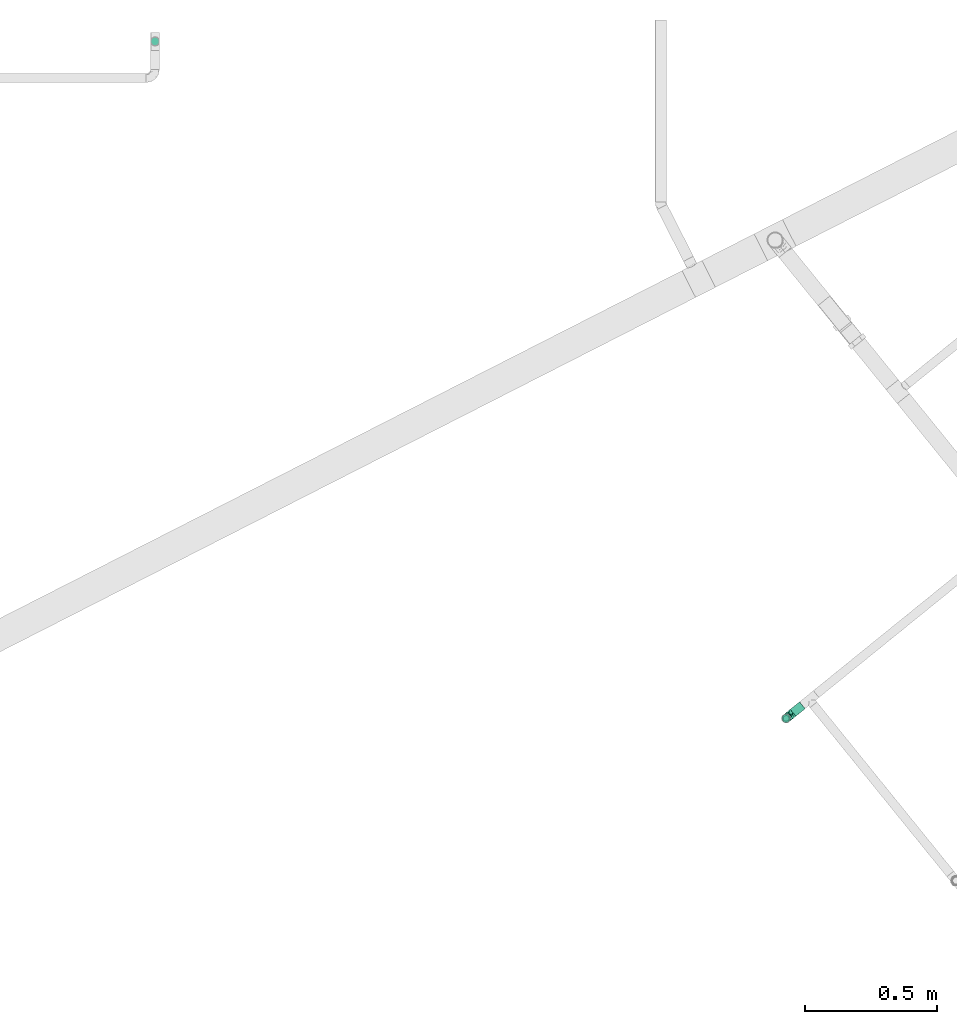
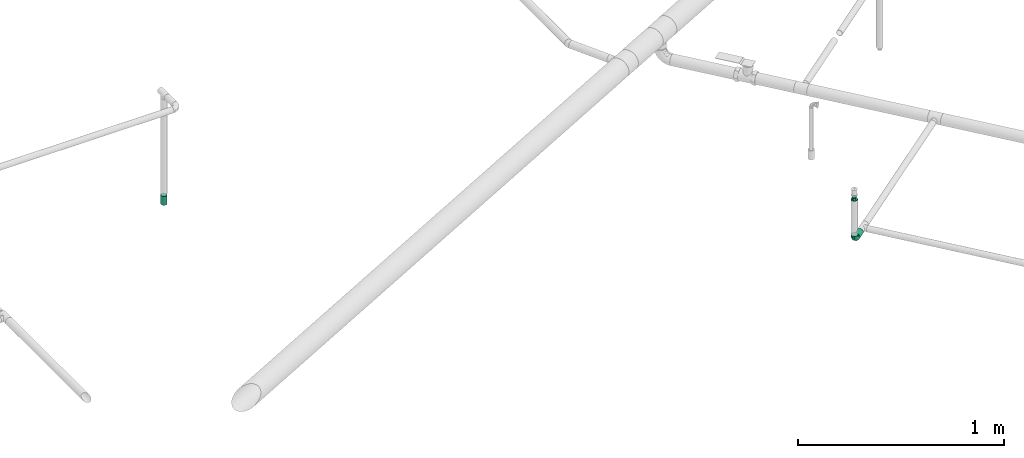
# One storey, part 82 of 94: 2 flow fittings, 1 flow segment, 1 flow terminal.
"""IFC2X3 building model written with IfcOpenShell, lengths in millimetres."""

import ifcopenshell
import ifcopenshell.guid

model = None  # the IFC model being written
_history = None  # IfcOwnerHistory: only IFC2X3 demands one
_inside = {}  # id of a spatial element -> (the spatial element, [elements in it])
_under = {}  # id of a project, library or spatial element -> (it, [spatial elements below it])
_declared = {}  # id of a project -> (the project, [libraries it declares])
_typed = {}  # id of a type object -> (the type object, [elements of that type])
_made_of = {}  # id of a material, layer set ... -> (it, [elements and type objects made of it])


def new_model(schema):
    """Start an empty IFC model of exactly this schema.

    Asked for "IFC4X3", IfcOpenShell would pick the latest addendum, in which some entities
    have other attributes; the version numbers below select the first issue.
    IFC2X3 requires an IfcOwnerHistory on every rooted entity: one is made here for all.
    """
    global model, _history
    if schema == "IFC4X3":
        model = ifcopenshell.file(schema_version=(4, 3, 0, 0))
    else:
        model = ifcopenshell.file(schema=schema)
    _inside.clear()
    _under.clear()
    _declared.clear()
    _typed.clear()
    _made_of.clear()
    _history = None
    if model.schema == "IFC2X3":
        org = make("IfcOrganization", Name="unknown")
        user = make(
            "IfcPersonAndOrganization",
            ThePerson=make("IfcPerson", FamilyName="unknown"),
            TheOrganization=org,
        )
        app = make(
            "IfcApplication",
            ApplicationDeveloper=org,
            Version="unknown",
            ApplicationFullName="unknown",
            ApplicationIdentifier="unknown",
        )
        _history = make(
            "IfcOwnerHistory",
            OwningUser=user,
            OwningApplication=app,
            ChangeAction="ADDED",
            CreationDate=0,
        )
    return model


def make(cls, **values):
    """One entity of the class cls with the attributes given. An attribute that is None is left unset."""
    return model.create_entity(
        cls, **{name: value for name, value in values.items() if value is not None}
    )


def entity(cls, *values):
    """Any entity or typed value of the class cls, its attributes in the order of the schema. None: left unset."""
    e = model.create_entity(cls)
    for i, value in enumerate(values):
        if value is not None:
            e[i] = value
    return e


def rooted(cls, **values):
    """An entity with a GlobalId (a new one), such as an element, a storey or a relation."""
    return make(cls, GlobalId=ifcopenshell.guid.new(), OwnerHistory=_history, **values)


def si_unit(unit_type, name, prefix=None):
    """IfcSIUnit, for example si_unit("LENGTHUNIT", "METRE", prefix="MILLI")."""
    return make("IfcSIUnit", UnitType=unit_type, Prefix=prefix, Name=name)


def converted_unit(unit_type, name, factor, base, dimensions=None, offset=None):
    """IfcConversionBasedUnit, such as the inch: factor (a typed value) times the base unit."""
    return make(
        "IfcConversionBasedUnit"
        if offset is None
        else "IfcConversionBasedUnitWithOffset",
        ConversionOffset=offset,
        Dimensions=None
        if dimensions is None
        else entity("IfcDimensionalExponents", *dimensions),
        UnitType=unit_type,
        Name=name,
        ConversionFactor=make(
            "IfcMeasureWithUnit", ValueComponent=factor, UnitComponent=base
        ),
    )


def derived_unit(unit_type, elements):
    """IfcDerivedUnit: a product of units, each with its exponent."""
    return make(
        "IfcDerivedUnit",
        Elements=[
            make("IfcDerivedUnitElement", Unit=unit, Exponent=power)
            for unit, power in elements
        ],
        UnitType=unit_type,
    )


def assignment(units):
    """IfcUnitAssignment: the units of a project."""
    return None if units is None else make("IfcUnitAssignment", Units=units)


def point(xyz):
    """IfcCartesianPoint."""
    return None if xyz is None else make("IfcCartesianPoint", Coordinates=xyz)


def direction(xyz):
    """IfcDirection."""
    return None if xyz is None else make("IfcDirection", DirectionRatios=xyz)


def frame(location, z_axis=None, x_axis=None):
    """IfcAxis2Placement3D, a coordinate frame: its origin and axes. An axis left out is left unset."""
    return make(
        "IfcAxis2Placement3D",
        Location=point(location),
        Axis=direction(z_axis),
        RefDirection=direction(x_axis),
    )


def frame_2d(location, x_axis=None):
    """IfcAxis2Placement2D, a coordinate frame in the plane: its origin and x axis."""
    return make(
        "IfcAxis2Placement2D", Location=point(location), RefDirection=direction(x_axis)
    )


def origin_with_axes():
    """The frame at (0, 0, 0) with the z axis (0, 0, 1) and the x axis (1, 0, 0) written out."""
    return frame((0.0, 0.0, 0.0), z_axis=(0.0, 0.0, 1.0), x_axis=(1.0, 0.0, 0.0))


def origin_2d_with_axis():
    """The frame at (0, 0) in the plane with the x axis (1, 0) written out."""
    return frame_2d((0.0, 0.0), x_axis=(1.0, 0.0))


def place(relative_to, where):
    """IfcLocalPlacement: puts the frame where relative to a parent placement (None: the world)."""
    return make(
        "IfcLocalPlacement", PlacementRelTo=relative_to, RelativePlacement=where
    )


def context(
    kind, dimensions, precision=None, world=None, true_north=None, identifier=None
):
    """IfcGeometricRepresentationContext, for example the 3D "Model" context."""
    return make(
        "IfcGeometricRepresentationContext",
        ContextIdentifier=identifier,
        ContextType=kind,
        CoordinateSpaceDimension=dimensions,
        Precision=precision,
        WorldCoordinateSystem=world,
        TrueNorth=true_north,
    )


def subcontext(parent, identifier, kind, view, scale=None):
    """IfcGeometricRepresentationSubContext, for example "Body" below "Model"."""
    return make(
        "IfcGeometricRepresentationSubContext",
        ContextIdentifier=identifier,
        ContextType=kind,
        ParentContext=parent,
        TargetScale=scale,
        TargetView=view,
    )


def project(units=None, contexts=None):
    """IfcProject with its units and contexts."""
    return rooted(
        "IfcProject",
        Name="project",
        RepresentationContexts=contexts,
        UnitsInContext=assignment(units),
    )


def spatial(cls, under=None, at=None, **own):
    """A site, building, storey or space (cls), placed at a placement, below another one or the project."""
    s = rooted(cls, ObjectPlacement=at, **own)
    if under is not None:
        _under.setdefault(under.id(), (under, []))[1].append(s)
    return s


def profile(cls, at=None, kind="AREA", **sizes):
    """A parametric profile (cls). Its sizes go by their IFC names, for example OverallWidth=200.0."""
    return make(cls, ProfileType=kind, Position=at, **sizes)


def hollow_circle(**sizes):
    """IfcCircleHollowProfileDef."""
    return profile("IfcCircleHollowProfileDef", **sizes)


def extrude(swept, where, along, depth):
    """IfcExtrudedAreaSolid: the profile swept, set in the frame where, extruded along a direction by depth."""
    return make(
        "IfcExtrudedAreaSolid",
        SweptArea=swept,
        Position=where,
        ExtrudedDirection=direction(along),
        Depth=depth,
    )


def faces_of(points, faces, orient=None, outer=None):
    """IfcFace entities. A face is a list of loops; a loop is a list of indices into points, from 0.

    orient and outer hold one flag for each loop. By default every Orientation is true, the
    first loop of a face is its IfcFaceOuterBound and the others are IfcFaceBound.
    """
    made = []
    for i, loops in enumerate(faces):
        bounds = []
        for j, loop in enumerate(loops):
            is_outer = j == 0 if outer is None else outer[i][j]
            bounds.append(
                make(
                    "IfcFaceOuterBound" if is_outer else "IfcFaceBound",
                    Bound=make("IfcPolyLoop", Polygon=[points[k] for k in loop]),
                    Orientation=True if orient is None else orient[i][j],
                )
            )
        made.append(make("IfcFace", Bounds=bounds))
    return made


def open_shell(faces, orient=None, outer=None):
    """The faces of one IfcOpenShell. surface_model builds it on its shared points."""
    return ("IfcOpenShell", faces, orient, outer)


def surface_model(cls, points, shells):
    """IfcFaceBasedSurfaceModel or IfcShellBasedSurfaceModel (cls): surfaces that need not close."""
    shared = [point(p) for p in points]
    made = [make(c, CfsFaces=faces_of(shared, fs, o, b)) for c, fs, o, b in shells]
    if cls == "IfcFaceBasedSurfaceModel":
        return make(cls, FbsmFaces=made)
    return make(cls, SbsmBoundary=made)


def shape(context_of_items, identifier, shape_type, items):
    """IfcShapeRepresentation: the items that make up one representation, for example the "Body"."""
    return make(
        "IfcShapeRepresentation",
        ContextOfItems=context_of_items,
        RepresentationIdentifier=identifier,
        RepresentationType=shape_type,
        Items=items,
    )


def source(mapping_origin, context_of_items, identifier, shape_type, items):
    """IfcRepresentationMap: a shape defined once, which mapped items show again and again."""
    return make(
        "IfcRepresentationMap",
        MappingOrigin=mapping_origin,
        MappedRepresentation=shape(context_of_items, identifier, shape_type, items),
    )


def transform(
    local_origin,
    x_axis=None,
    y_axis=None,
    z_axis=None,
    scale=None,
    scale2=None,
    scale3=None,
    uniform=True,
):
    """IfcCartesianTransformationOperator3D, or its non-uniform kind. x_axis, y_axis, z_axis: its Axis1, 2, 3."""
    if uniform:
        return make(
            "IfcCartesianTransformationOperator3D",
            Axis1=direction(x_axis),
            Axis2=direction(y_axis),
            LocalOrigin=point(local_origin),
            Scale=scale,
            Axis3=direction(z_axis),
        )
    return make(
        "IfcCartesianTransformationOperator3DnonUniform",
        Axis1=direction(x_axis),
        Axis2=direction(y_axis),
        LocalOrigin=point(local_origin),
        Scale=scale,
        Axis3=direction(z_axis),
        Scale2=scale2,
        Scale3=scale3,
    )


def mapped(mapping_source, mapping_target):
    """IfcMappedItem: shows the shape of a source again, moved by a transform."""
    return make(
        "IfcMappedItem", MappingSource=mapping_source, MappingTarget=mapping_target
    )


def made_of(thing, what):
    """Note that an element or type object is made of a material, layer set ...; save() writes the relation."""
    if what is not None:
        _made_of.setdefault(what.id(), (what, []))[1].append(thing)
    return thing


def type_object(cls, material=None, **own):
    """A type object (cls), such as IfcWallType, which elements share."""
    return made_of(rooted(cls, **own), material)


def element(
    cls,
    number,
    at=None,
    inside=None,
    cuts=None,
    type_object=None,
    material=None,
    context=None,
    identifier="Body",
    shape_type=None,
    held_by="IfcProductDefinitionShape",
    body=None,
    shapes=None,
    **own,
):
    """One element of the class cls, such as IfcWall. Its Tag is "e" and its number.

    at: its placement. inside: the storey or other place that contains it. cuts: it is an
    opening in that element (IfcRelVoidsElement). A single representation is given by context,
    identifier, shape_type and body (its items); several are given by shapes. held_by: the class
    of the entity that holds the representations. save() writes the other relations.
    """
    e = rooted(cls, Tag="e%d" % number, ObjectPlacement=at, **own)
    if body is not None:
        shapes = [shape(context, identifier, shape_type, body)]
    if shapes is not None:
        e.Representation = make(held_by, Representations=shapes)
    if inside is not None:
        _inside.setdefault(inside.id(), (inside, []))[1].append(e)
    if cuts is not None:
        rooted(
            "IfcRelVoidsElement", RelatingBuildingElement=cuts, RelatedOpeningElement=e
        )
    if type_object is not None:
        _typed.setdefault(type_object.id(), (type_object, []))[1].append(e)
    return made_of(e, material)


def aggregate(whole, parts):
    """IfcRelAggregates: a whole, such as a stair, and the parts it consists of."""
    return rooted("IfcRelAggregates", RelatingObject=whole, RelatedObjects=parts)


def save(model, path):
    """Write the relations noted so far, then the file.

    IfcRelAggregates (storeys below a building ...), IfcRelContainedInSpatialStructure (elements
    in a storey), IfcRelDefinesByType, IfcRelAssociatesMaterial and IfcRelDeclares: one each for
    every whole, place, type object, material and project.
    """
    for whole, parts in _under.values():
        aggregate(whole, parts)
    for where, things in _inside.values():
        rooted(
            "IfcRelContainedInSpatialStructure",
            RelatedElements=things,
            RelatingStructure=where,
        )
    for kind, things in _typed.values():
        rooted("IfcRelDefinesByType", RelatedObjects=things, RelatingType=kind)
    for what, things in _made_of.values():
        rooted("IfcRelAssociatesMaterial", RelatedObjects=things, RelatingMaterial=what)
    for by, libraries in _declared.values():
        rooted("IfcRelDeclares", RelatingContext=by, RelatedDefinitions=libraries)
    model.write(path)


model = new_model("IFC2X3")

# Units and contexts
model_context = context("Model", 3, precision=0.01, world=frame((0.0, 4.29681676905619e-09, 0.0)), true_north=direction((4.01073788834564e-13, 1.0)))
plan_context = context("Plan", 3, precision=0.01, world=frame((0.0, 4.29681676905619e-09, 0.0)), true_north=direction((4.01073788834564e-13, 1.0)))
body_context = subcontext(model_context, "Body", "Model", "MODEL_VIEW")
ifc_project = project(units=[converted_unit("PLANEANGLEUNIT", "DEGREE", entity("IfcPositiveLengthMeasure", 0.0174532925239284), si_unit("PLANEANGLEUNIT", "RADIAN"), dimensions=[0, 0, 0, 0, 0, 0, 0]), si_unit("AREAUNIT", "SQUARE_METRE"), si_unit("LENGTHUNIT", "METRE", prefix="MILLI"), si_unit("MASSUNIT", "GRAM", prefix="KILO"), si_unit("POWERUNIT", "WATT"), si_unit("PRESSUREUNIT", "PASCAL", prefix="KILO"), si_unit("FORCEUNIT", "NEWTON", prefix="KILO"), si_unit("ELECTRICVOLTAGEUNIT", "VOLT"), si_unit("ELECTRICCURRENTUNIT", "AMPERE"), si_unit("THERMODYNAMICTEMPERATUREUNIT", "DEGREE_CELSIUS"), si_unit("TIMEUNIT", "SECOND"), si_unit("VOLUMEUNIT", "CUBIC_METRE"), derived_unit("LINEARVELOCITYUNIT", [(si_unit("LENGTHUNIT", "METRE"), 1), (si_unit("TIMEUNIT", "SECOND"), -1)]), derived_unit("VOLUMETRICFLOWRATEUNIT", [(si_unit("VOLUMEUNIT", "CUBIC_METRE"), 1), (si_unit("TIMEUNIT", "SECOND"), -1)]), derived_unit("THERMALTRANSMITTANCEUNIT", [(si_unit("POWERUNIT", "WATT"), 1), (si_unit("THERMODYNAMICTEMPERATUREUNIT", "KELVIN"), -1), (si_unit("AREAUNIT", "SQUARE_METRE"), -1)]), derived_unit("SOUNDPRESSUREUNIT", [(si_unit("PRESSUREUNIT", "PASCAL"), 1)])], contexts=[model_context, plan_context])

# Site, building, storey
site_placement = place(None, frame((0.0, -4.29681676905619e-09, 0.0), z_axis=(0.0, 0.0, 1.0), x_axis=(1.0, 0.0, 0.0)))
site = spatial("IfcSite", under=ifc_project, at=site_placement, CompositionType="ELEMENT")
building_placement = place(site_placement, frame((0.0, 4.29681676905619e-09, 0.0), z_axis=(0.0, 0.0, 1.0), x_axis=(1.0, 0.0, 0.0)))
building = spatial("IfcBuilding", under=site, at=building_placement, Name="mc-building", CompositionType="ELEMENT")
storey_placement = place(building_placement, frame((0.0, 0.0, 210900.0), z_axis=(0.0, 0.0, 1.0), x_axis=(1.0, 0.0, 0.0)))
storey = spatial("IfcBuildingStorey", under=building, at=storey_placement, Name="Nivå F", CompositionType="ELEMENT", Elevation=210900.0)

# Flow fittings
pipe_fitting_type_1 = type_object("IfcPipeFittingType", Name="magi_pipe_fe_elbow_short_001", PredefinedType="BEND")
shared_shape_1 = source(origin_with_axes(), body_context, "Body", "SurfaceModel", [
    surface_model("IfcShellBasedSurfaceModel", [(-33.8, 8.45, -14.63583), (-33.8, 4.37404, -16.32415), (-33.8, 11.9501, -11.9501), (-33.8, -11.9501, -11.9501), (-33.8, -14.63583, -8.45), (-33.8, -8.45, -14.63583), (-33.8, 0.0, -16.9), (-33.8, -4.37404, -16.32415), (-33.8, -4.37404, 16.32415), (-33.8, 0.0, 16.9), (-33.8, -8.45, 14.63583), (-33.8, 16.32415, -4.37404), (-33.8, 14.63583, -8.45), (-33.8, -16.32415, -4.37404), (-33.8, -16.9, 0.0), (-33.8, -16.32415, 4.37404), (-33.8, 11.9501, 11.9501), (-33.8, 14.63583, 8.45), (-33.8, 16.32415, 4.37404), (-33.8, 4.37404, 16.32415), (-33.8, 8.45, 14.63583), (-33.8, -14.63583, 8.45), (-33.8, -11.9501, 11.9501), (-33.8, 16.9, 0.0), (-11.9501, 33.8, -11.9501), (0.0, 33.8, -16.9), (-4.37404, 33.8, -16.32415), (-8.45, 33.8, -14.63583), (-14.63583, 33.8, -8.45), (-16.32415, 33.8, -4.37404), (14.63583, 33.8, -8.45), (8.45, 33.8, 14.63583), (16.32415, 33.8, -4.37404), (8.45, 33.8, -14.63583), (11.9501, 33.8, -11.9501), (4.37404, 33.8, -16.32415), (16.32415, 33.8, 4.37404), (16.9, 33.8, 0.0), (-11.9501, 33.8, 11.9501), (-16.32415, 33.8, 4.37404), (-14.63583, 33.8, 8.45), (-8.45, 33.8, 14.63583), (-4.37404, 33.8, 16.32415), (11.9501, 33.8, 11.9501), (14.63583, 33.8, 8.45), (0.0, 33.8, 16.9), (4.37404, 33.8, 16.32415), (-16.9, 33.8, 0.0), (-24.79389, -13.12945, 9.48721), (-22.19287, -9.75018, 12.59315), (-24.09897, -14.97035, 0.0), (-14.93934, -10.76256, 8.5297), (-22.46095, -14.75051, 5.27077), (14.75051, 22.46094, 5.27077), (11.9251, 13.23888, 4.33236), (13.04069, 14.39795, 0.0), (7.71387, 13.68847, 11.55891), (9.75018, 22.19287, 12.59315), (4.10169, 13.0571, 14.04018), (-24.84007, -6.39063, 15.2048), (-25.81779, -2.23879, 16.61097), (-23.66549, 2.59054, 16.87119), (-26.50418, 14.06512, 11.08152), (-24.21253, 17.66365, 7.72657), (-29.58514, 15.86957, 7.00283), (-6.17382, -7.5455, 0.0), (-13.23888, -11.9251, 4.33236), (-14.39795, -13.04069, 0.0), (-17.81434, 18.87373, 11.97104), (-6.30846, 29.15138, 15.82987), (-2.31622, 25.28002, 16.85849), (-29.23923, 10.23435, 13.77053), (-1.45439, -2.85688, 7.61475), (-0.28326, 0.34872, 10.09509), (-5.74484, -4.04709, 10.4122), (-4.41137, 11.31918, 16.59407), (-8.39727, 3.10034, 15.7812), (-1.72649, 9.1306, 15.53089), (-17.39909, 24.75344, 7.64977), (-26.19233, 20.0512, 0.0), (-28.14518, 17.29657, 4.25857), (-26.05147, 6.6281, 15.96447), (-5.87354, 16.61944, 16.86968), (-12.51807, 12.51807, 16.48937), (-10.06312, 7.38516, 16.81295), (-3.01882, 3.01882, 13.81718), (-13.0571, -4.10169, 14.04018), (-16.82553, -0.15166, 16.38038), (10.76256, 14.93934, 8.5297), (13.12945, 24.79389, 9.48721), (6.39063, 24.84007, 15.2048), (2.23879, 25.81779, 16.61097), (-13.68847, -7.71387, 11.55891), (14.97035, 24.09897, 0.0), (-7.30894, 22.89991, 16.09489), (-10.67958, 26.17414, 14.008), (-12.78295, 18.26924, 15.06066), (-13.88562, 22.45231, 12.93244), (-18.04944, 15.16501, 14.04434), (-23.11658, 20.08178, 4.02986), (-21.84989, 21.84989, 0.0), (-18.55817, 25.48277, 3.93065), (-13.95142, 26.94732, 11.03289), (-18.57098, 7.23906, 16.59756), (-16.58335, 4.14122, 16.89279), (-17.96666, 11.46709, 15.63151), (-9.84453, 17.54304, 16.18938), (0.15166, 16.82553, 16.38038), (-23.27207, 11.47201, 14.23154), (3.84842, 5.86994, 10.70473), (-8.0212, -7.54413, 7.93275), (1.00345, -2.19508, 4.57414), (5.13203, 3.01004, 5.90201), (5.24161, 1.7543, 2.53265), (8.70457, 7.04947, 3.99182), (-20.0512, 26.19233, 0.0), (8.4852, 8.76699, 7.09296), (-4.55488, -6.72064, 4.90681), (2.05031, -2.05031, 0.0), (7.5455, 6.17382, 0.0), (-26.75399, 2.1369, -16.845), (-14.61995, 24.73803, -11.27736), (-28.45274, -13.45335, -9.81895), (-26.00469, 6.63555, -15.96645), (-23.06726, 20.04573, -4.26202), (-13.80647, -4.26506, -14.17873), (-14.67501, -0.21081, -16.07388), (-6.7902, -0.2828, -13.8478), (-24.53586, 11.08096, -14.13417), (-26.72048, 14.00837, -11.05776), (10.0967, 24.44989, -12.75976), (5.83237, 21.40218, -15.03047), (6.66249, 28.54238, -15.38093), (-20.38182, 15.48705, -12.74596), (12.53268, 21.23441, -9.15363), (12.54494, 15.67504, -5.54878), (9.7522, 12.89279, -8.66343), (-15.65186, 19.64213, -13.01327), (-12.03528, 20.66498, -14.67665), (-15.61907, 15.61906, -14.83879), (-25.56551, -15.26206, 0.0), (-24.65452, -15.12934, -5.50955), (13.45335, 28.45274, -9.81895), (15.12934, 24.65452, -5.50955), (-7.35442, -8.31014, -5.65563), (-15.67504, -12.54494, -5.54878), (-24.44989, -10.0967, -12.75976), (0.16522, 0.41303, -9.71728), (-5.70658, -5.33066, -8.89288), (-5.13869, -2.37198, -11.53565), (-21.23441, -12.53268, -9.15363), (0.71146, 7.93863, -14.09382), (0.21081, 14.67501, -16.07388), (3.49291, 14.42772, -14.76381), (-24.89911, -2.13088, -16.591), (-28.54238, -6.66249, -15.38093), (-18.44386, -7.71663, -13.26957), (2.13088, 24.89911, -16.591), (-28.64342, 17.44413, -2.89318), (1.70017, -1.28722, -5.09504), (-16.57067, 26.81947, -7.36596), (-17.69055, 27.4263, -3.76405), (-12.89279, -9.7522, -8.66343), (-5.96611, 5.96611, -15.95814), (-20.53709, 20.09345, -8.28985), (-2.1369, 26.75399, -16.845), (-6.89872, 24.58781, -16.02578), (-10.60739, 26.53157, -13.98044), (-21.40218, -5.83237, -15.03047), (2.93192, 5.89627, -11.55917), (6.89393, 12.61842, -11.82233), (5.58056, 5.95325, -8.79455), (-3.99512, 18.61798, -16.89635), (8.31014, 7.35442, -5.65563), (-9.1383, 9.86148, -16.89041), (-9.99983, 16.02119, -16.39699), (-16.68576, 9.78031, -16.34199), (-27.01915, 16.61158, -7.12979), (15.26206, 25.56551, 0.0), (-18.61798, 3.99512, -16.89635), (-19.37495, 27.82495, 0.0), (-12.61842, -6.89393, -11.82233), (-18.84705, 19.14018, -10.96545)], [open_shell([[[0, 1, 2]], [[3, 4, 5]], [[6, 7, 5]], [[8, 9, 10]], [[1, 6, 2]], [[11, 12, 2]], [[4, 2, 6]], [[2, 13, 10]], [[5, 4, 6]], [[2, 4, 13]], [[14, 15, 13]], [[11, 2, 16]], [[11, 17, 18]], [[11, 16, 17]], [[19, 20, 16]], [[16, 2, 10]], [[19, 16, 10]], [[21, 22, 15]], [[22, 13, 15]], [[22, 10, 13]], [[10, 9, 19]], [[11, 18, 23]], [[24, 25, 26]], [[24, 26, 27]], [[24, 28, 29]], [[25, 24, 30]], [[31, 32, 24]], [[33, 30, 34]], [[33, 35, 25]], [[25, 30, 33]], [[32, 30, 24]], [[32, 36, 37]], [[38, 24, 29]], [[39, 40, 29]], [[40, 38, 29]], [[38, 41, 42]], [[38, 31, 24]], [[31, 38, 42]], [[36, 43, 44]], [[36, 32, 43]], [[31, 45, 46]], [[32, 31, 43]], [[42, 45, 31]], [[39, 29, 47]], [[22, 48, 49]], [[15, 14, 50]], [[51, 48, 52]], [[53, 54, 55]], [[48, 22, 21]], [[15, 52, 21]], [[56, 57, 58]], [[49, 10, 22]], [[49, 59, 10]], [[9, 60, 61]], [[62, 63, 64]], [[65, 66, 67]], [[57, 43, 31]], [[62, 68, 63]], [[42, 69, 70]], [[20, 71, 16]], [[8, 60, 9]], [[72, 73, 74]], [[75, 76, 77]], [[16, 62, 17]], [[40, 39, 78]], [[79, 23, 80]], [[64, 18, 17]], [[9, 61, 19]], [[19, 81, 20]], [[82, 83, 84]], [[74, 85, 86]], [[59, 86, 87]], [[88, 89, 57]], [[90, 31, 46]], [[44, 53, 36]], [[46, 45, 91]], [[54, 53, 88]], [[44, 89, 53]], [[92, 86, 49]], [[89, 44, 43]], [[10, 59, 8]], [[53, 55, 93]], [[93, 36, 53]], [[66, 52, 67]], [[94, 82, 70]], [[95, 96, 94]], [[97, 98, 96]], [[79, 99, 100]], [[41, 38, 95]], [[101, 100, 99]], [[68, 78, 63]], [[42, 41, 69]], [[23, 18, 80]], [[95, 94, 69]], [[78, 101, 99]], [[38, 102, 95]], [[70, 45, 42]], [[97, 95, 102]], [[15, 50, 52]], [[90, 57, 31]], [[57, 90, 58]], [[81, 19, 61]], [[103, 104, 84]], [[105, 81, 103]], [[38, 40, 102]], [[106, 96, 83]], [[94, 106, 82]], [[91, 70, 107]], [[71, 62, 16]], [[62, 108, 98]], [[86, 59, 49]], [[67, 52, 50]], [[60, 59, 87]], [[92, 49, 51]], [[86, 85, 76]], [[91, 90, 46]], [[37, 36, 93]], [[107, 77, 58]], [[107, 58, 90]], [[58, 85, 109]], [[110, 74, 92]], [[72, 74, 110]], [[66, 51, 52]], [[72, 111, 112]], [[113, 114, 112]], [[56, 88, 57]], [[52, 48, 21]], [[49, 48, 51]], [[57, 89, 43]], [[53, 89, 88]], [[103, 81, 61]], [[71, 81, 108]], [[18, 64, 80]], [[63, 78, 99]], [[47, 115, 101]], [[101, 115, 100]], [[40, 78, 102]], [[68, 102, 78]], [[97, 96, 95]], [[105, 98, 108]], [[103, 84, 83]], [[107, 70, 82]], [[76, 84, 87]], [[82, 84, 75]], [[70, 91, 45]], [[90, 91, 107]], [[59, 60, 8]], [[61, 60, 87]], [[73, 85, 74]], [[109, 112, 116]], [[103, 61, 104]], [[105, 103, 83]], [[96, 105, 83]], [[81, 105, 108]], [[96, 98, 105]], [[62, 98, 68]], [[61, 87, 104]], [[87, 84, 104]], [[86, 76, 87]], [[77, 76, 85]], [[58, 77, 85]], [[75, 77, 107]], [[82, 75, 107]], [[76, 75, 84]], [[81, 71, 20]], [[62, 71, 108]], [[95, 69, 41]], [[70, 69, 94]], [[62, 64, 17]], [[80, 63, 99]], [[63, 80, 64]], [[80, 99, 79]], [[66, 65, 117]], [[110, 66, 117]], [[112, 114, 116]], [[118, 117, 65]], [[110, 92, 51]], [[112, 111, 113]], [[119, 55, 54]], [[74, 86, 92]], [[58, 109, 56]], [[116, 56, 109]], [[66, 110, 51]], [[72, 110, 117]], [[111, 72, 117]], [[73, 112, 109]], [[117, 118, 111]], [[113, 111, 118]], [[118, 119, 113]], [[114, 119, 54]], [[119, 114, 113]], [[116, 54, 88]], [[54, 116, 114]], [[116, 88, 56]], [[112, 73, 72]], [[85, 73, 109]], [[78, 39, 101]], [[47, 101, 39]], [[102, 68, 97]], [[97, 68, 98]], [[82, 106, 83]], [[94, 96, 106]], [[1, 120, 6]], [[28, 24, 121]], [[3, 122, 4]], [[0, 123, 1]], [[100, 124, 79]], [[125, 126, 127]], [[128, 2, 129]], [[130, 131, 132]], [[128, 129, 133]], [[134, 135, 136]], [[137, 138, 139]], [[128, 0, 2]], [[67, 140, 141]], [[134, 142, 143]], [[141, 13, 4]], [[144, 65, 145]], [[146, 3, 5]], [[147, 148, 149]], [[145, 141, 150]], [[151, 152, 153]], [[154, 7, 6]], [[5, 155, 146]], [[150, 146, 156]], [[155, 5, 7]], [[143, 135, 134]], [[35, 157, 25]], [[23, 79, 158]], [[148, 159, 144]], [[160, 161, 29]], [[145, 162, 144]], [[163, 152, 151]], [[29, 28, 160]], [[121, 164, 160]], [[33, 34, 130]], [[25, 165, 26]], [[26, 165, 166]], [[142, 34, 30]], [[24, 27, 167]], [[124, 161, 164]], [[157, 35, 132]], [[155, 154, 168]], [[123, 0, 128]], [[169, 170, 171]], [[172, 157, 152]], [[26, 166, 27]], [[132, 35, 33]], [[142, 130, 34]], [[168, 154, 126]], [[136, 135, 173]], [[133, 137, 139]], [[2, 12, 129]], [[170, 131, 130]], [[30, 32, 143]], [[172, 174, 175]], [[176, 123, 128]], [[158, 177, 11]], [[135, 55, 119]], [[167, 27, 166]], [[175, 166, 172]], [[137, 167, 138]], [[122, 141, 4]], [[140, 14, 13]], [[32, 37, 178]], [[170, 130, 134]], [[152, 157, 131]], [[165, 157, 172]], [[153, 170, 151]], [[152, 163, 174]], [[168, 125, 156]], [[122, 146, 150]], [[120, 154, 6]], [[179, 174, 126]], [[179, 126, 154]], [[126, 163, 127]], [[162, 145, 150]], [[140, 13, 141]], [[32, 178, 143]], [[55, 143, 178]], [[177, 129, 12]], [[128, 133, 139]], [[176, 128, 139]], [[120, 123, 179]], [[121, 160, 28]], [[161, 100, 180]], [[166, 175, 138]], [[121, 24, 167]], [[161, 47, 29]], [[79, 124, 158]], [[124, 164, 177]], [[161, 124, 100]], [[136, 171, 170]], [[127, 163, 151]], [[147, 171, 159]], [[148, 144, 162]], [[127, 151, 169]], [[127, 181, 125]], [[129, 177, 164]], [[12, 11, 177]], [[159, 65, 144]], [[67, 141, 145]], [[143, 55, 135]], [[135, 119, 173]], [[123, 120, 1]], [[154, 120, 179]], [[157, 165, 25]], [[166, 165, 172]], [[172, 152, 174]], [[176, 139, 175]], [[126, 174, 163]], [[176, 174, 179]], [[174, 176, 175]], [[123, 176, 179]], [[150, 181, 162]], [[127, 149, 181]], [[181, 148, 162]], [[159, 148, 147]], [[171, 136, 173]], [[170, 134, 136]], [[159, 171, 173]], [[171, 147, 169]], [[169, 147, 149]], [[151, 170, 169]], [[164, 182, 129]], [[182, 121, 137]], [[181, 149, 148]], [[169, 149, 127]], [[182, 137, 133]], [[167, 137, 121]], [[166, 138, 167]], [[175, 139, 138]], [[129, 182, 133]], [[121, 182, 164]], [[161, 160, 164]], [[47, 161, 180]], [[177, 158, 124]], [[23, 158, 11]], [[130, 132, 33]], [[157, 132, 131]], [[143, 142, 30]], [[130, 142, 134]], [[154, 155, 7]], [[146, 155, 168]], [[146, 122, 3]], [[141, 122, 150]], [[152, 131, 153]], [[159, 119, 118]], [[67, 145, 65]], [[170, 153, 131]], [[119, 159, 173]], [[159, 118, 65]], [[156, 125, 181]], [[126, 125, 168]], [[150, 156, 181]], [[168, 156, 146]]])]),
])
flow_fitting_1_placement = place(storey_placement, frame((724295.62051, 443560.15199, 3500.0), z_axis=(-0.629320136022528, 0.777146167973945, 0.0), x_axis=(-0.777146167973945, -0.629320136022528, 0.0)))
element("IfcFlowFitting", 1, at=flow_fitting_1_placement, inside=storey, type_object=pipe_fitting_type_1, Name="magi_pipe_fe_elbow_short_001", context=body_context, shape_type="MappedRepresentation", body=[
    mapped(shared_shape_1, transform((0.0, 0.0, 0.0), scale=1.0)),
])
pipe_fitting_type_2 = type_object("IfcPipeFittingType", Name="magi_pipe_fe_reducer_centric_short_NOR", PredefinedType="TRANSITION")
shared_shape_2 = source(origin_with_axes(), body_context, "Body", "SurfaceModel", [
    surface_model("IfcShellBasedSurfaceModel", [(14.4, -11.9501, -11.9501), (14.4, -8.45, -14.63583), (14.4, -4.37404, -16.32415), (14.4, 8.45, -14.63583), (14.4, 16.9, 0.0), (14.4, -14.63583, -8.45), (14.4, -16.32415, -4.37404), (14.4, -4.37404, 16.32415), (14.4, 4.37404, -16.32415), (14.4, 0.0, -16.9), (14.4, 14.63583, -8.45), (14.4, 16.32415, -4.37404), (14.4, 11.9501, -11.9501), (14.4, -16.32415, 4.37404), (14.4, -16.9, 0.0), (14.4, -11.9501, 11.9501), (14.4, -14.63583, 8.45), (14.4, -8.45, 14.63583), (14.4, 0.0, 16.9), (14.4, 16.32415, 4.37404), (14.4, 14.63583, 8.45), (14.4, 11.9501, 11.9501), (14.4, 8.45, 14.63583), (14.4, 4.37404, 16.32415), (12.4, 0.0, 16.9), (12.4, 14.63583, 8.45), (12.4, -4.37404, 16.32415), (12.4, -8.45, 14.63583), (12.4, -16.32415, 4.37404), (12.4, -14.63583, 8.45), (12.4, -11.9501, 11.9501), (12.4, 11.9501, 11.9501), (12.4, 8.45, 14.63583), (12.4, 4.37404, 16.32415), (12.4, 16.32415, 4.37404), (12.4, 16.9, 0.0), (12.4, 16.32415, -4.37404), (12.4, 8.45, -14.63583), (12.4, -11.9501, -11.9501), (12.4, -16.32415, -4.37404), (12.4, -14.63583, -8.45), (12.4, -4.37404, -16.32415), (12.4, -8.45, -14.63583), (12.4, 14.63583, -8.45), (12.4, 11.9501, -11.9501), (12.4, 4.37404, -16.32415), (12.4, 0.0, -16.9), (12.4, -16.9, 0.0), (-2.0, 0.0, 10.7), (-2.0, 10.33541, -2.76936), (-2.0, -2.76936, 10.33541), (-2.0, -5.35, 9.26647), (-2.0, -10.33541, 2.76936), (-2.0, -9.26647, 5.35), (-2.0, -7.56604, 7.56604), (-2.0, 10.33541, 2.76936), (-2.0, 5.35, 9.26647), (-2.0, 7.56604, 7.56604), (-2.0, 2.76936, 10.33541), (-2.0, 9.26647, 5.35), (-2.0, 10.7, 0.0), (-2.0, -10.33541, -2.76936), (-2.0, -9.26647, -5.35), (-2.0, -7.56604, -7.56604), (-2.0, -5.35, -9.26647), (-2.0, -2.76936, -10.33541), (-2.0, 9.26647, -5.35), (-2.0, 7.56604, -7.56604), (-2.0, 5.35, -9.26647), (-2.0, 2.76936, -10.33541), (-2.0, 0.0, -10.7), (-2.0, -10.7, 0.0), (0.0, -2.76936, -10.33541), (0.0, 0.0, -10.7), (0.0, -5.35, -9.26647), (0.0, -7.56604, -7.56604), (0.0, -10.33541, -2.76936), (0.0, 10.33541, -2.76936), (0.0, -9.26647, -5.35), (0.0, 0.0, 10.7), (0.0, 2.76936, -10.33541), (0.0, 5.35, -9.26647), (0.0, 9.26647, -5.35), (0.0, 7.56604, -7.56604), (0.0, -10.33541, 2.76936), (0.0, -10.7, 0.0), (0.0, -7.56604, 7.56604), (0.0, -9.26647, 5.35), (0.0, -2.76936, 10.33541), (0.0, -5.35, 9.26647), (0.0, 7.56604, 7.56604), (0.0, 9.26647, 5.35), (0.0, 10.33541, 2.76936), (0.0, 10.7, 0.0), (0.0, 5.35, 9.26647), (0.0, 2.76936, 10.33541), (12.4, -2.98753, -15.66253), (12.4, -5.97505, -14.42505), (0.0, -2.675, -9.26647), (12.4, 15.66253, -2.98753), (12.4, 14.42505, -5.97505), (0.0, 9.3625, -2.31662), (0.0, 2.675, -9.26647), (12.4, 5.97505, -14.42505), (12.4, 8.96258, -13.18758), (0.0, 6.6875, -6.94985), (12.4, -14.42505, -5.97505), (12.4, -15.66253, -2.98753), (0.0, -9.3625, -2.31662), (0.0, 8.025, -4.63324), (12.4, 13.18758, -8.96258), (12.4, 2.98753, -15.66253), (0.0, -6.6875, -6.94985), (12.4, -13.18758, -8.96258), (12.4, -8.96258, -13.18758), (0.0, 0.0, -9.26647), (0.0, -8.025, -4.63324), (12.4, 2.98753, 15.66253), (12.4, 5.97505, 14.42505), (0.0, 2.675, 9.26647), (12.4, -15.66253, 2.98753), (12.4, -14.42505, 5.97505), (0.0, -9.3625, 2.31662), (0.0, -2.675, 9.26647), (12.4, -5.97505, 14.42505), (12.4, -8.96258, 13.18758), (0.0, -6.6875, 6.94985), (12.4, 14.42505, 5.97505), (12.4, 15.66253, 2.98753), (0.0, 9.3625, 2.31662), (0.0, -8.025, 4.63324), (12.4, -13.18758, 8.96258), (12.4, -2.98753, 15.66253), (0.0, 6.6875, 6.94985), (12.4, 13.18758, 8.96258), (12.4, 8.96258, 13.18758), (0.0, 0.0, 9.26647), (0.0, 8.025, 4.63324)], [open_shell([[[0, 1, 2]], [[0, 2, 3]], [[3, 4, 0]], [[5, 0, 6]], [[0, 7, 6]], [[8, 3, 9]], [[3, 2, 9]], [[10, 11, 12]], [[3, 12, 11]], [[11, 4, 3]], [[13, 14, 6]], [[15, 16, 13]], [[7, 15, 13]], [[0, 4, 7]], [[17, 15, 7]], [[18, 7, 4]], [[19, 20, 18]], [[18, 4, 19]], [[21, 22, 20]], [[22, 18, 20]], [[23, 18, 22]], [[13, 6, 7]], [[24, 25, 26]], [[27, 26, 28]], [[28, 29, 30]], [[27, 28, 30]], [[28, 26, 25]], [[31, 25, 32]], [[24, 33, 32]], [[32, 25, 24]], [[28, 25, 34]], [[35, 36, 34]], [[37, 28, 34]], [[38, 39, 28]], [[40, 39, 38]], [[41, 42, 38]], [[38, 28, 37]], [[38, 37, 41]], [[43, 44, 36]], [[37, 36, 44]], [[45, 46, 37]], [[37, 34, 36]], [[37, 46, 41]], [[47, 28, 39]], [[35, 11, 36]], [[36, 10, 43]], [[37, 44, 3]], [[12, 44, 43]], [[45, 37, 8]], [[11, 10, 36]], [[35, 4, 11]], [[37, 3, 8]], [[3, 44, 12]], [[43, 10, 12]], [[45, 8, 9]], [[9, 46, 45]], [[46, 2, 41]], [[41, 1, 42]], [[40, 38, 5]], [[0, 38, 42]], [[39, 40, 6]], [[1, 0, 42]], [[41, 2, 1]], [[39, 6, 14]], [[6, 40, 5]], [[38, 0, 5]], [[39, 14, 47]], [[9, 2, 46]], [[47, 13, 28]], [[28, 16, 29]], [[27, 30, 17]], [[15, 30, 29]], [[26, 27, 7]], [[13, 16, 28]], [[47, 14, 13]], [[27, 17, 7]], [[17, 30, 15]], [[29, 16, 15]], [[26, 7, 18]], [[18, 24, 26]], [[24, 23, 33]], [[33, 22, 32]], [[25, 31, 20]], [[21, 31, 32]], [[34, 25, 19]], [[22, 21, 32]], [[33, 23, 22]], [[34, 19, 4]], [[19, 25, 20]], [[31, 21, 20]], [[34, 4, 35]], [[18, 23, 24]], [[48, 49, 50]], [[50, 49, 51]], [[52, 53, 54]], [[51, 52, 54]], [[49, 48, 55]], [[56, 57, 58]], [[57, 48, 58]], [[59, 55, 57]], [[57, 55, 48]], [[60, 49, 55]], [[49, 52, 51]], [[61, 52, 49]], [[62, 61, 63]], [[64, 61, 49]], [[63, 61, 64]], [[65, 64, 49]], [[66, 67, 49]], [[68, 49, 67]], [[69, 70, 68]], [[65, 49, 68]], [[68, 70, 65]], [[71, 52, 61]], [[72, 73, 74]], [[75, 74, 76]], [[76, 74, 77]], [[78, 75, 76]], [[76, 77, 79]], [[80, 81, 73]], [[81, 74, 73]], [[82, 77, 83]], [[81, 83, 77]], [[81, 77, 74]], [[84, 85, 76]], [[86, 87, 84]], [[88, 86, 84]], [[88, 76, 79]], [[89, 86, 88]], [[77, 90, 79]], [[91, 90, 92]], [[92, 77, 93]], [[94, 95, 90]], [[90, 77, 92]], [[79, 90, 95]], [[84, 76, 88]], [[60, 77, 49]], [[49, 82, 66]], [[68, 67, 81]], [[83, 67, 66]], [[69, 68, 80]], [[77, 82, 49]], [[60, 93, 77]], [[68, 81, 80]], [[81, 67, 83]], [[66, 82, 83]], [[69, 80, 73]], [[73, 70, 69]], [[70, 72, 65]], [[65, 74, 64]], [[62, 63, 78]], [[75, 63, 64]], [[61, 62, 76]], [[74, 75, 64]], [[65, 72, 74]], [[61, 76, 85]], [[76, 62, 78]], [[63, 75, 78]], [[61, 85, 71]], [[73, 72, 70]], [[71, 84, 52]], [[52, 87, 53]], [[51, 54, 89]], [[86, 54, 53]], [[50, 51, 88]], [[84, 87, 52]], [[71, 85, 84]], [[51, 89, 88]], [[89, 54, 86]], [[53, 87, 86]], [[50, 88, 79]], [[79, 48, 50]], [[48, 95, 58]], [[58, 94, 56]], [[59, 57, 91]], [[90, 57, 56]], [[55, 59, 92]], [[94, 90, 56]], [[58, 95, 94]], [[55, 92, 93]], [[92, 59, 91]], [[57, 90, 91]], [[55, 93, 60]], [[79, 95, 48]], [[31, 24, 44]], [[24, 30, 47]], [[44, 35, 31]], [[47, 46, 44]], [[46, 47, 38]], [[24, 47, 44]], [[89, 94, 93]], [[85, 89, 74]], [[81, 74, 93]], [[89, 93, 74]], [[96, 97, 98]], [[99, 100, 101]], [[102, 81, 103]], [[93, 35, 99]], [[104, 105, 44]], [[104, 81, 105]], [[106, 107, 108]], [[109, 110, 105]], [[103, 111, 102]], [[74, 98, 97]], [[112, 38, 113]], [[74, 114, 112]], [[107, 47, 85]], [[98, 115, 96]], [[102, 111, 115]], [[104, 103, 81]], [[113, 116, 112]], [[115, 111, 46]], [[99, 101, 93]], [[100, 109, 101]], [[108, 116, 106]], [[108, 107, 85]], [[44, 105, 110]], [[109, 100, 110]], [[115, 46, 96]], [[113, 106, 116]], [[38, 112, 114]], [[74, 97, 114]], [[117, 118, 119]], [[120, 121, 122]], [[123, 89, 124]], [[85, 47, 120]], [[125, 126, 30]], [[125, 89, 126]], [[127, 128, 129]], [[130, 131, 126]], [[124, 132, 123]], [[94, 119, 118]], [[133, 31, 134]], [[94, 135, 133]], [[128, 35, 93]], [[119, 136, 117]], [[123, 132, 136]], [[125, 124, 89]], [[134, 137, 133]], [[136, 132, 24]], [[120, 122, 85]], [[121, 130, 122]], [[129, 137, 127]], [[129, 128, 93]], [[30, 126, 131]], [[130, 121, 131]], [[136, 24, 117]], [[134, 127, 137]], [[31, 133, 135]], [[94, 118, 135]]])]),
])
flow_fitting_2_placement = place(storey_placement, frame((724295.62051, 443560.15199, 3755.04800000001), z_axis=(-1.0, 0.0, 0.0), x_axis=(0.0, 0.0, -1.0)))
element("IfcFlowFitting", 2, at=flow_fitting_2_placement, inside=storey, type_object=pipe_fitting_type_2, Name="magi_pipe_fe_reducer_centric_short_NOR", context=body_context, shape_type="MappedRepresentation", body=[
    mapped(shared_shape_2, transform((0.0, 0.0, 0.0), scale=1.0)),
])

# Flow segment
pipe_segment_type = type_object("IfcPipeSegmentType", Name="Stålrør normaltykke", PredefinedType="RIGIDSEGMENT")
shared_shape_3 = source(origin_with_axes(), body_context, "Body", "SweptSolid", [
    extrude(hollow_circle(Radius=16.9, WallThickness=2.0, at=origin_2d_with_axis()), frame((0.0, 0.0, 0.0), z_axis=(1.0, 0.0, 0.0), x_axis=(0.0, 1.0, 0.0)), (0.0, 0.0, 1.0), 45.6),
])
flow_segment_placement = place(storey_placement, frame((724357.27356, 443610.07764, 3500.0), z_axis=(0.0, 0.0, 1.0), x_axis=(-0.777146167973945, -0.629320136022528, 0.0)))
element("IfcFlowSegment", 3, at=flow_segment_placement, inside=storey, type_object=pipe_segment_type, Name="Stålrør normaltykke", context=body_context, shape_type="MappedRepresentation", body=[
    mapped(shared_shape_3, transform((0.0, 0.0, 0.0), scale=1.0)),
])

# Flow terminal
fire_suppression_terminal_type = type_object("IfcFireSuppressionTerminalType", Name="SP-15-K80-68DGR-STD-HIMLING", PredefinedType="NOTDEFINED")
shared_shape_4 = source(origin_with_axes(), body_context, "Body", "SurfaceModel", [
    surface_model("IfcShellBasedSurfaceModel", [(4.1411, -15.45481, 53.0), (8.0, -13.85641, 53.0), (11.31371, -11.31371, 53.0), (-8.0, -13.85641, 53.0), (15.45481, -4.1411, 53.0), (16.0, 0.0, 53.0), (13.85641, -8.0, 53.0), (0.0, -16.0, 53.0), (-4.1411, -15.45481, 53.0), (-13.85641, -8.0, 53.0), (-11.31371, -11.31371, 53.0), (-15.45481, -4.1411, 53.0), (15.45481, 4.1411, 53.0), (13.85641, 8.0, 53.0), (11.31371, 11.31371, 53.0), (-4.1411, 15.45481, 53.0), (8.0, 13.85641, 53.0), (4.1411, 15.45481, 53.0), (0.0, 16.0, 53.0), (-13.85641, 8.0, 53.0), (-15.45481, 4.1411, 53.0), (-16.0, 0.0, 53.0), (-11.31371, 11.31371, 53.0), (-8.0, 13.85641, 53.0), (0.0, 16.0, 0.0), (4.1411, 15.45481, 0.0), (8.0, 13.85641, 0.0), (-4.1411, 15.45481, 0.0), (11.31371, 11.31371, 0.0), (13.85641, 8.0, 0.0), (15.45481, 4.1411, 0.0), (-15.45481, -4.1411, 0.0), (-11.31371, 11.31371, 0.0), (-8.0, 13.85641, 0.0), (-13.85641, 8.0, 0.0), (-15.45481, 4.1411, 0.0), (-16.0, 0.0, 0.0), (4.1411, -15.45481, 0.0), (16.0, 0.0, 0.0), (15.45481, -4.1411, 0.0), (13.85641, -8.0, 0.0), (11.31371, -11.31371, 0.0), (8.0, -13.85641, 0.0), (-8.0, -13.85641, 0.0), (-13.85641, -8.0, 0.0), (-11.31371, -11.31371, 0.0), (0.0, -16.0, 0.0), (-4.1411, -15.45481, 0.0)], [open_shell([[[0, 1, 2]], [[3, 0, 2]], [[4, 5, 2]], [[4, 2, 6]], [[3, 2, 5]], [[7, 3, 8]], [[7, 0, 3]], [[3, 9, 10]], [[9, 3, 11]], [[5, 11, 3]], [[5, 12, 11]], [[12, 13, 14]], [[15, 12, 14]], [[16, 17, 18]], [[14, 16, 15]], [[18, 15, 16]], [[11, 19, 20]], [[21, 11, 20]], [[22, 15, 23]], [[15, 22, 19]], [[19, 11, 15]], [[11, 12, 15]], [[24, 25, 26]], [[27, 24, 26]], [[28, 29, 30]], [[27, 26, 28]], [[27, 28, 31]], [[27, 32, 33]], [[32, 27, 34]], [[34, 31, 35]], [[31, 34, 27]], [[35, 31, 36]], [[28, 30, 31]], [[37, 38, 39]], [[37, 39, 40]], [[41, 42, 37]], [[41, 37, 40]], [[38, 37, 43]], [[44, 43, 45]], [[43, 44, 31]], [[43, 46, 47]], [[43, 31, 38]], [[37, 46, 43]], [[38, 31, 30]], [[11, 31, 44]], [[45, 9, 44]], [[3, 43, 47]], [[45, 43, 10]], [[8, 47, 46]], [[31, 21, 36]], [[31, 11, 21]], [[44, 9, 11]], [[45, 10, 9]], [[3, 10, 43]], [[47, 8, 3]], [[46, 7, 8]], [[0, 37, 42]], [[41, 1, 42]], [[6, 40, 39]], [[41, 40, 2]], [[4, 39, 38]], [[37, 0, 7]], [[42, 1, 0]], [[41, 2, 1]], [[40, 6, 2]], [[4, 6, 39]], [[38, 5, 4]], [[37, 7, 46]], [[12, 38, 30]], [[13, 30, 29]], [[16, 26, 25]], [[17, 25, 24]], [[30, 13, 12]], [[12, 5, 38]], [[28, 14, 13]], [[28, 26, 14]], [[14, 26, 16]], [[25, 17, 16]], [[28, 13, 29]], [[24, 18, 17]], [[15, 27, 33]], [[32, 23, 33]], [[19, 34, 35]], [[32, 34, 22]], [[20, 35, 36]], [[27, 15, 18]], [[33, 23, 15]], [[32, 22, 23]], [[34, 19, 22]], [[20, 19, 35]], [[36, 21, 20]], [[27, 18, 24]]])]),
])
flow_terminal_placement = place(storey_placement, frame((721900.18546, 446130.2735, 3050.0), z_axis=(0.0, 0.0, -1.0), x_axis=(-1.0, 0.0, 0.0)))
element("IfcFlowTerminal", 4, at=flow_terminal_placement, inside=storey, type_object=fire_suppression_terminal_type, Name="SP-15-K80-68DGR-STD-HIMLING", context=body_context, shape_type="MappedRepresentation", body=[
    mapped(shared_shape_4, transform((0.0, 0.0, 0.0), scale=1.0)),
])

save(model, "model.ifc")
